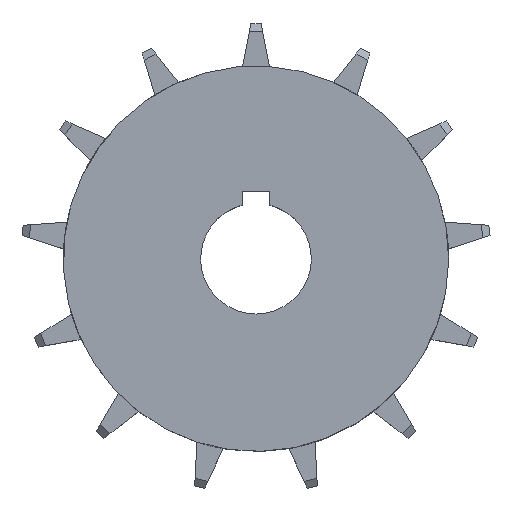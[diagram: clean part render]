
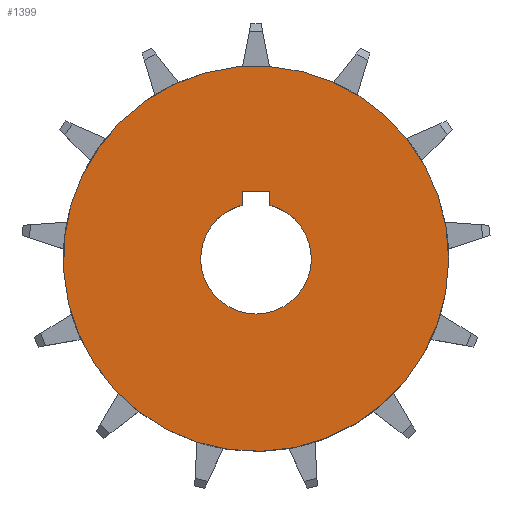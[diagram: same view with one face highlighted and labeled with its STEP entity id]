
A CAD part, top view. The second image highlights one B-rep face of the part: STEP entity #1399.
In plain terms, the highlighted planar face has unit normal (0, 0, 1).
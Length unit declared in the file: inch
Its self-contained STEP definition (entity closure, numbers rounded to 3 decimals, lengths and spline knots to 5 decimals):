
#2=CARTESIAN_POINT('',(0.,0.,0.));
#3=DIRECTION('',(0.,0.,1.));
#4=DIRECTION('',(0.663,0.749,0.));
#5=AXIS2_PLACEMENT_3D('',#2,#3,#4);
#7=DIRECTION('',(0.,-1.,0.));
#8=VECTOR('',#7,0.1875);
#9=CARTESIAN_POINT('',(0.1875,0.91368,0.));
#10=LINE('',#9,#8);
#11=DIRECTION('',(1.,0.,0.));
#12=VECTOR('',#11,0.375);
#13=CARTESIAN_POINT('',(-0.1875,0.91368,0.));
#14=LINE('',#13,#12);
#15=DIRECTION('',(0.,1.,0.));
#16=VECTOR('',#15,0.1875);
#17=CARTESIAN_POINT('',(-0.1875,0.72618,0.));
#18=LINE('',#17,#16);
#19=CARTESIAN_POINT('',(0.,0.,0.));
#20=DIRECTION('',(0.,0.,-1.));
#21=DIRECTION('',(0.25,0.968,0.));
#22=AXIS2_PLACEMENT_3D('',#19,#20,#21);
#240=CARTESIAN_POINT('',(0.,0.,0.));
#241=DIRECTION('',(0.,0.,1.));
#242=DIRECTION('',(0.239,0.971,0.));
#243=AXIS2_PLACEMENT_3D('',#240,#241,#242);
#1051=CARTESIAN_POINT('',(0.62527,2.53681,0.));
#1053=VERTEX_POINT('',#1051);
#1055=CARTESIAN_POINT('',(1.73256,1.95565,0.));
#1057=VERTEX_POINT('',#1055);
#1362=CARTESIAN_POINT('',(0.1875,0.91368,0.));
#1363=CARTESIAN_POINT('',(0.1875,0.72618,0.));
#1364=VERTEX_POINT('',#1362);
#1365=VERTEX_POINT('',#1363);
#1366=CARTESIAN_POINT('',(-0.1875,0.72618,0.));
#1367=VERTEX_POINT('',#1366);
#1368=CARTESIAN_POINT('',(-0.1875,0.91368,0.));
#1369=VERTEX_POINT('',#1368);
#1378=CARTESIAN_POINT('',(0.,0.,0.));
#1379=DIRECTION('',(0.,0.,1.));
#1380=DIRECTION('',(1.,0.,0.));
#1381=AXIS2_PLACEMENT_3D('',#1378,#1379,#1380);
#1382=PLANE('',#1381);
#1384=ORIENTED_EDGE('',*,*,#1383,.F.);
#1386=ORIENTED_EDGE('',*,*,#1385,.F.);
#1387=EDGE_LOOP('',(#1384,#1386));
#1388=FACE_OUTER_BOUND('',#1387,.F.);
#1390=ORIENTED_EDGE('',*,*,#1389,.F.);
#1392=ORIENTED_EDGE('',*,*,#1391,.F.);
#1394=ORIENTED_EDGE('',*,*,#1393,.F.);
#1396=ORIENTED_EDGE('',*,*,#1395,.F.);
#1397=EDGE_LOOP('',(#1390,#1392,#1394,#1396));
#1398=FACE_BOUND('',#1397,.F.);
#1399=ADVANCED_FACE('',(#1388,#1398),#1382,.T.);
#6=CIRCLE('',#5,2.61273);
#23=CIRCLE('',#22,0.75);
#244=CIRCLE('',#243,2.61273);
#1383=EDGE_CURVE('',#1053,#1057,#244,.T.);
#1385=EDGE_CURVE('',#1057,#1053,#6,.T.);
#1389=EDGE_CURVE('',#1364,#1365,#10,.T.);
#1391=EDGE_CURVE('',#1369,#1364,#14,.T.);
#1393=EDGE_CURVE('',#1367,#1369,#18,.T.);
#1395=EDGE_CURVE('',#1365,#1367,#23,.T.);
